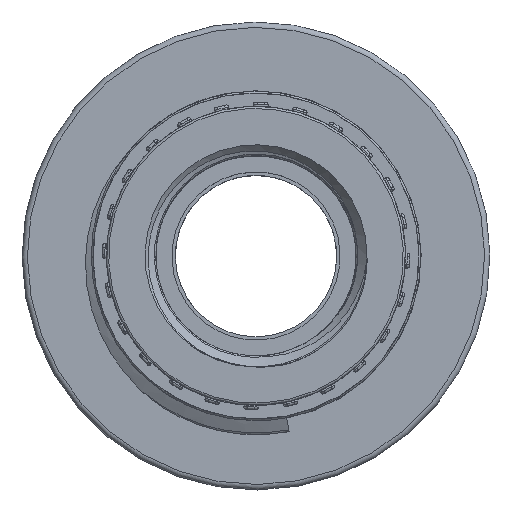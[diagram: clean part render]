
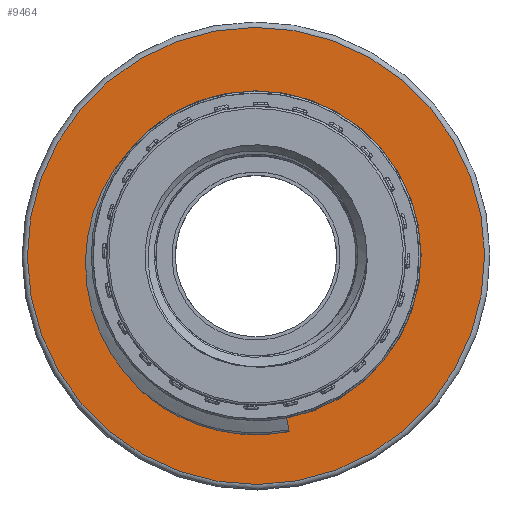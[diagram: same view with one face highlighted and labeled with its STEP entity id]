
A CAD part, top view. The second image highlights one B-rep face of the part: STEP entity #9464.
In plain terms, the highlighted planar face has unit normal (0, 0, 1).
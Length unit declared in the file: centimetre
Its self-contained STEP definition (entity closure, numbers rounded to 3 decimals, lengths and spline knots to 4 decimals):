
#332=FACE_BOUND('',#1310,.T.);
#348=B_SPLINE_CURVE_WITH_KNOTS('',3,(#13771,#13772,#13773,#13774,#13775,
#13776,#13777,#13778,#13779,#13780,#13781,#13782,#13783),.UNSPECIFIED.,
 .F.,.F.,(4,3,3,3,4),(0.,0.185,0.9987,1.7948,
2.5013),.UNSPECIFIED.);
#351=B_SPLINE_CURVE_WITH_KNOTS('',3,(#13889,#13890,#13891,#13892,#13893,
#13894,#13895,#13896),.UNSPECIFIED.,.F.,.F.,(4,2,2,4),(0.,0.6318,
1.1248,1.5591),.UNSPECIFIED.);
#780=FACE_OUTER_BOUND('',#1309,.T.);
#1309=EDGE_LOOP('',(#7222));
#1310=EDGE_LOOP('',(#7223,#7224,#7225,#7226));
#1855=CIRCLE('',#10229,1.535);
#1858=CIRCLE('',#10234,2.125);
#2089=LINE('',#15140,#2791);
#2791=VECTOR('',#10682,0.1272);
#3491=VERTEX_POINT('',#13576);
#3492=VERTEX_POINT('',#13770);
#3495=VERTEX_POINT('',#13888);
#3501=VERTEX_POINT('',#15137);
#3955=VERTEX_POINT('',#20394);
#4365=EDGE_CURVE('',#3492,#3491,#348,.T.);
#4369=EDGE_CURVE('',#3495,#3492,#351,.T.);
#4383=EDGE_CURVE('',#3501,#3495,#2089,.T.);
#5107=EDGE_CURVE('',#3491,#3501,#1855,.T.);
#5110=EDGE_CURVE('',#3955,#3955,#1858,.T.);
#7222=ORIENTED_EDGE('',*,*,#5110,.F.);
#7223=ORIENTED_EDGE('',*,*,#4365,.T.);
#7224=ORIENTED_EDGE('',*,*,#5107,.T.);
#7225=ORIENTED_EDGE('',*,*,#4383,.T.);
#7226=ORIENTED_EDGE('',*,*,#4369,.T.);
#8558=PLANE('',#10236);
#9464=ADVANCED_FACE('',(#780,#332),#8558,.T.);
#10229=AXIS2_PLACEMENT_3D('',#20387,#12102,#12103);
#10234=AXIS2_PLACEMENT_3D('',#20395,#12112,#12113);
#10236=AXIS2_PLACEMENT_3D('',#20398,#12116,#12117);
#10682=DIRECTION('',(0.185,-0.983,0.));
#12102=DIRECTION('center_axis',(0.,0.,
-1.));
#12103=DIRECTION('ref_axis',(0.87,-0.493,0.));
#12112=DIRECTION('center_axis',(0.,0.,
-1.));
#12113=DIRECTION('ref_axis',(0.87,-0.493,0.));
#12116=DIRECTION('center_axis',(0.,0.,
1.));
#12117=DIRECTION('ref_axis',(-0.493,-0.87,0.));
#13576=CARTESIAN_POINT('',(-1.1779,0.9842,1.36));
#13770=CARTESIAN_POINT('',(-1.0611,-1.2577,1.36));
#13771=CARTESIAN_POINT('Ctrl Pts',(-1.0611,-1.2577,
1.36));
#13772=CARTESIAN_POINT('Ctrl Pts',(-1.1066,-1.216,1.36));
#13773=CARTESIAN_POINT('Ctrl Pts',(-1.1495,-1.1719,
1.36));
#13774=CARTESIAN_POINT('Ctrl Pts',(-1.1898,-1.1255,
1.36));
#13775=CARTESIAN_POINT('Ctrl Pts',(-1.3667,-0.9215,
1.36));
#13776=CARTESIAN_POINT('Ctrl Pts',(-1.4923,-0.6721,
1.36));
#13777=CARTESIAN_POINT('Ctrl Pts',(-1.5495,-0.4085,
1.36));
#13778=CARTESIAN_POINT('Ctrl Pts',(-1.6055,-0.1506,
1.36));
#13779=CARTESIAN_POINT('Ctrl Pts',(-1.5964,0.1221,1.36));
#13780=CARTESIAN_POINT('Ctrl Pts',(-1.5215,0.3757,1.36));
#13781=CARTESIAN_POINT('Ctrl Pts',(-1.455,0.6007,
1.36));
#13782=CARTESIAN_POINT('Ctrl Pts',(-1.3366,0.8111,
1.36));
#13783=CARTESIAN_POINT('Ctrl Pts',(-1.178,0.9843,
1.36));
#13888=CARTESIAN_POINT('',(0.3083,-1.6334,1.36));
#13889=CARTESIAN_POINT('Ctrl Pts',(0.3083,-1.6334,
1.36));
#13890=CARTESIAN_POINT('Ctrl Pts',(0.1015,-1.6731,1.36));
#13891=CARTESIAN_POINT('Ctrl Pts',(-0.1114,-1.6722,
1.36));
#13892=CARTESIAN_POINT('Ctrl Pts',(-0.4788,-1.5979,
1.36));
#13893=CARTESIAN_POINT('Ctrl Pts',(-0.6342,-1.5409,
1.36));
#13894=CARTESIAN_POINT('Ctrl Pts',(-0.9039,-1.391,
1.36));
#13895=CARTESIAN_POINT('Ctrl Pts',(-0.998,-1.3158,
1.36));
#13896=CARTESIAN_POINT('Ctrl Pts',(-1.0611,-1.2577,1.36));
#15137=CARTESIAN_POINT('',(0.2847,-1.5084,1.36));
#15140=CARTESIAN_POINT('',(0.0143,-0.0757,1.36));
#20387=CARTESIAN_POINT('Origin',(0.,0.,
1.36));
#20394=CARTESIAN_POINT('',(-1.8482,1.0486,1.36));
#20395=CARTESIAN_POINT('Origin',(0.,0.,
1.36));
#20398=CARTESIAN_POINT('Origin',(-1.8917,1.0733,1.36));
